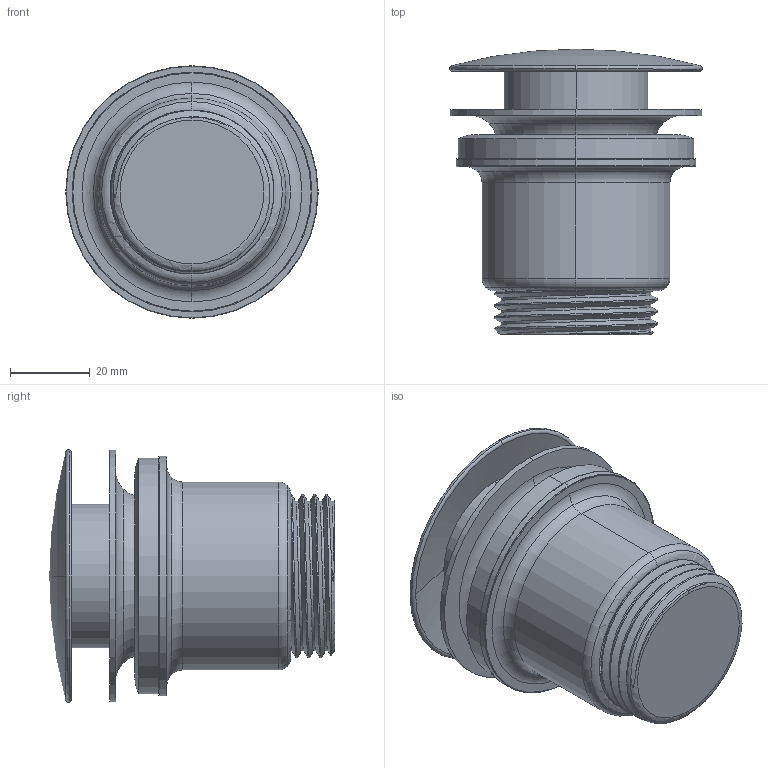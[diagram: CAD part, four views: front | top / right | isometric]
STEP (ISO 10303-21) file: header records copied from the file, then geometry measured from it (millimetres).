
FILE_DESCRIPTION((''),'2;1');
FILE_NAME('23870--00_SW0001','2026-10-16T12:15:26',('simi1'),(''),'CREO PARAMETRIC BY PTC INC, 2022244','CREO PARAMETRIC BY PTC INC, 2022244','');
FILE_SCHEMA(('AUTOMOTIVE_DESIGN { 1 0 10303 214 1 1 1 1 }'));
Length unit declared in the file: millimetre
Products named in the file (1): 23870--00_SW0001
Bounding box: 63.14 x 71.4 x 63.14 mm (x, y, z)
Surface area: 50680.5 mm2 (no closed solid volume)
Topology: 0 solids, 7 shells, 140 faces, 375 edges, 232 vertices
Faces by surface type: torus 66, cylinder 48, plane 15, sphere 8, bspline 3
Entity records: 6701 total; most frequent: CARTESIAN_POINT 3150, DIRECTION 810, ORIENTED_EDGE 715, EDGE_CURVE 373, AXIS2_PLACEMENT_3D 370, CIRCLE 233, VERTEX_POINT 232, EDGE_LOOP 140
